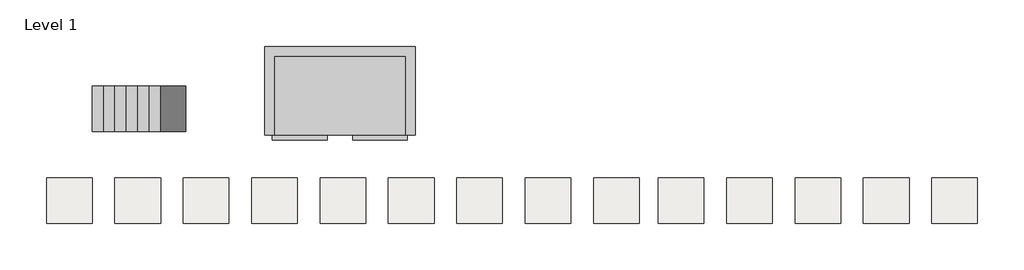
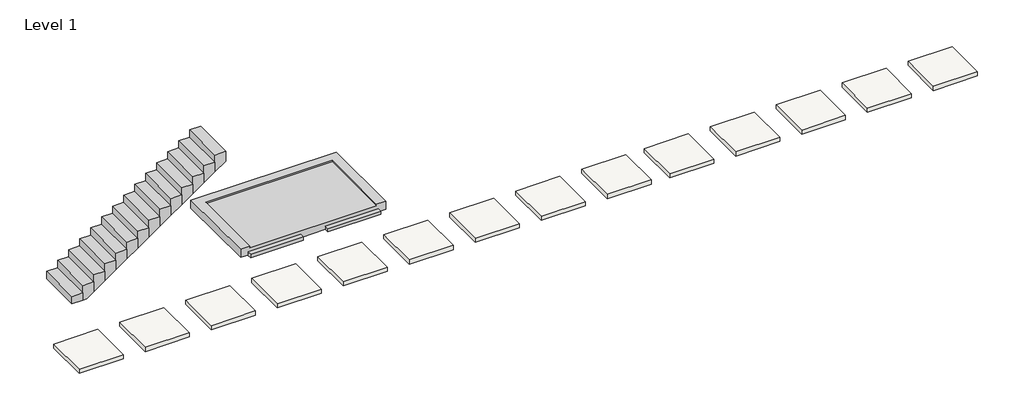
# One storey: 14 slabs, 1 proxy, 1 stair flight.
"""IFC4 building model written with IfcOpenShell, lengths in millimetres."""

from ifc_helpers import new_model, si_unit, frame, origin, place, context, project, spatial, polyline, outline, extrude, faceted_brep, transform, mapped, element, save
from components import proxy_300_24_isr_concrete_platform_double_platform_9cdc8692

model = new_model("IFC4")

# Units and contexts
model_context = context("Model", 3, world=origin())
ifc_project = project(units=[si_unit("LENGTHUNIT", "METRE", prefix="MILLI")], contexts=[model_context])

# Site, building, storey
site = spatial("IfcSite", under=ifc_project)
building = spatial("IfcBuilding", under=site)
storey = spatial("IfcBuildingStorey", under=building, Name="Level 1", Elevation=0.0)

# Proxy
placement = place(None, origin())
proxy_300_24_isr_concrete_platform_double_platform_shape = proxy_300_24_isr_concrete_platform_double_platform_9cdc8692(model_context)
element("IfcBuildingElementProxy", 1, Name="300_24_ISR_concrete_platform : double platform", ObjectType="300_24_ISR_concrete_platform : double platform", at=placement, inside=storey, context=model_context, shape_type="MappedRepresentation", body=[
    mapped(proxy_300_24_isr_concrete_platform_double_platform_shape, transform((-652.5441241, 2827.5413771, 0.0), x_axis=(1.0, 0.0, 0.0), y_axis=(0.0, 1.0, 0.0), z_axis=(0.0, 0.0, 1.0))),
])

# Slabs
element("IfcSlab", 2, ObjectType="Generic 100mm", at=placement, inside=storey, context=model_context, shape_type="SweptSolid", body=[
    extrude(outline(polyline([(-3088.5953778, 89.4387512), (-3088.5953778, -910.5612488), (-4088.5953778, -910.5612488), (-4088.5953778, 89.4387512), (-3088.5953778, 89.4387512)])), frame((0.0, 0.0, -100.0), z_axis=(0.0, 0.0, 1.0), x_axis=(1.0, 0.0, 0.0)), (0.0, 0.0, 1.0), 100.0),
])
element("IfcSlab", 3, ObjectType="Generic 100mm", at=placement, inside=storey, context=model_context, shape_type="SweptSolid", body=[
    extrude(outline(polyline([(-1588.5953778, 89.4387512), (-1588.5953778, -910.5612488), (-2588.5953778, -910.5612488), (-2588.5953778, 89.4387512), (-1588.5953778, 89.4387512)])), frame((0.0, 0.0, -100.0), z_axis=(0.0, 0.0, 1.0), x_axis=(1.0, 0.0, 0.0)), (0.0, 0.0, 1.0), 100.0),
])
element("IfcSlab", 4, ObjectType="Generic 100mm", at=placement, inside=storey, context=model_context, shape_type="SweptSolid", body=[
    extrude(outline(polyline([(-88.5953778, 89.4387512), (-88.5953778, -910.5612488), (-1088.5953778, -910.5612488), (-1088.5953778, 89.4387512), (-88.5953778, 89.4387512)])), frame((0.0, 0.0, -100.0), z_axis=(0.0, 0.0, 1.0), x_axis=(1.0, 0.0, 0.0)), (0.0, 0.0, 1.0), 100.0),
])
element("IfcSlab", 5, ObjectType="Generic 100mm", at=placement, inside=storey, context=model_context, shape_type="SweptSolid", body=[
    extrude(outline(polyline([(1411.4046222, 89.4387512), (1411.4046222, -910.5612488), (411.4046222, -910.5612488), (411.4046222, 89.4387512), (1411.4046222, 89.4387512)])), frame((0.0, 0.0, -100.0), z_axis=(0.0, 0.0, 1.0), x_axis=(1.0, 0.0, 0.0)), (0.0, 0.0, 1.0), 100.0),
])
element("IfcSlab", 6, ObjectType="Generic 100mm", at=placement, inside=storey, context=model_context, shape_type="SweptSolid", body=[
    extrude(outline(polyline([(2911.4046222, 89.4387512), (2911.4046222, -910.5612488), (1911.4046222, -910.5612488), (1911.4046222, 89.4387512), (2911.4046222, 89.4387512)])), frame((0.0, 0.0, -100.0), z_axis=(0.0, 0.0, 1.0), x_axis=(1.0, 0.0, 0.0)), (0.0, 0.0, 1.0), 100.0),
])
element("IfcSlab", 7, ObjectType="Generic 100mm", at=placement, inside=storey, context=model_context, shape_type="SweptSolid", body=[
    extrude(outline(polyline([(4411.4046222, 89.4387512), (4411.4046222, -910.5612488), (3411.4046222, -910.5612488), (3411.4046222, 89.4387512), (4411.4046222, 89.4387512)])), frame((0.0, 0.0, -100.0), z_axis=(0.0, 0.0, 1.0), x_axis=(1.0, 0.0, 0.0)), (0.0, 0.0, 1.0), 100.0),
])
element("IfcSlab", 8, ObjectType="Generic 100mm", at=placement, inside=storey, context=model_context, shape_type="SweptSolid", body=[
    extrude(outline(polyline([(5911.4046222, 89.4387512), (5911.4046222, -910.5612488), (4911.4046222, -910.5612488), (4911.4046222, 89.4387512), (5911.4046222, 89.4387512)])), frame((0.0, 0.0, -100.0), z_axis=(0.0, 0.0, 1.0), x_axis=(1.0, 0.0, 0.0)), (0.0, 0.0, 1.0), 100.0),
])
element("IfcSlab", 9, ObjectType="Generic 100mm", at=placement, inside=storey, context=model_context, shape_type="SweptSolid", body=[
    extrude(outline(polyline([(7411.4046222, 89.4387512), (7411.4046222, -910.5612488), (6411.4046222, -910.5612488), (6411.4046222, 89.4387512), (7411.4046222, 89.4387512)])), frame((0.0, 0.0, -100.0), z_axis=(0.0, 0.0, 1.0), x_axis=(1.0, 0.0, 0.0)), (0.0, 0.0, 1.0), 100.0),
])
element("IfcSlab", 10, ObjectType="Generic 100mm", at=placement, inside=storey, context=model_context, shape_type="SweptSolid", body=[
    extrude(outline(polyline([(-4588.5953778, 89.4387512), (-4588.5953778, -910.5612488), (-5588.5953778, -910.5612488), (-5588.5953778, 89.4387512), (-4588.5953778, 89.4387512)])), frame((0.0, 0.0, -100.0), z_axis=(0.0, 0.0, 1.0), x_axis=(1.0, 0.0, 0.0)), (0.0, 0.0, 1.0), 100.0),
])
element("IfcSlab", 11, ObjectType="Generic 100mm", at=placement, inside=storey, context=model_context, shape_type="SweptSolid", body=[
    extrude(outline(polyline([(8831.4046222, 89.4387512), (8831.4046222, -910.5612488), (7831.4046222, -910.5612488), (7831.4046222, 89.4387512), (8831.4046222, 89.4387512)])), frame((0.0, 0.0, -100.0), z_axis=(0.0, 0.0, 1.0), x_axis=(1.0, 0.0, 0.0)), (0.0, 0.0, 1.0), 100.0),
])
element("IfcSlab", 12, ObjectType="Generic 100mm", at=placement, inside=storey, context=model_context, shape_type="SweptSolid", body=[
    extrude(outline(polyline([(10331.4046222, 89.4387512), (10331.4046222, -910.5612488), (9331.4046222, -910.5612488), (9331.4046222, 89.4387512), (10331.4046222, 89.4387512)])), frame((0.0, 0.0, -100.0), z_axis=(0.0, 0.0, 1.0), x_axis=(1.0, 0.0, 0.0)), (0.0, 0.0, 1.0), 100.0),
])
element("IfcSlab", 13, ObjectType="Generic 100mm", at=placement, inside=storey, context=model_context, shape_type="SweptSolid", body=[
    extrude(outline(polyline([(11831.4046222, 89.4387512), (11831.4046222, -910.5612488), (10831.4046222, -910.5612488), (10831.4046222, 89.4387512), (11831.4046222, 89.4387512)])), frame((0.0, 0.0, -100.0), z_axis=(0.0, 0.0, 1.0), x_axis=(1.0, 0.0, 0.0)), (0.0, 0.0, 1.0), 100.0),
])
element("IfcSlab", 14, ObjectType="Generic 100mm", at=placement, inside=storey, context=model_context, shape_type="SweptSolid", body=[
    extrude(outline(polyline([(13331.4046222, 89.4387512), (13331.4046222, -910.5612488), (12331.4046222, -910.5612488), (12331.4046222, 89.4387512), (13331.4046222, 89.4387512)])), frame((0.0, 0.0, -100.0), z_axis=(0.0, 0.0, 1.0), x_axis=(1.0, 0.0, 0.0)), (0.0, 0.0, 1.0), 100.0),
])
element("IfcSlab", 15, ObjectType="Generic 100mm", at=placement, inside=storey, context=model_context, shape_type="SweptSolid", body=[
    extrude(outline(polyline([(14831.4046222, 89.4387512), (14831.4046222, -910.5612488), (13831.4046222, -910.5612488), (13831.4046222, 89.4387512), (14831.4046222, 89.4387512)])), frame((0.0, 0.0, -100.0), z_axis=(0.0, 0.0, 1.0), x_axis=(1.0, 0.0, 0.0)), (0.0, 0.0, 1.0), 100.0),
])

# Stair flight
element("IfcStairFlight", 16, ObjectType="190mm Depth", at=placement, inside=storey, context=model_context, shape_type="Brep", body=[
    faceted_brep([(-4338.5953778, 2107.5413771, 173.9130435), (-4588.5953778, 2107.5413771, 173.9130435), (-4588.5953778, 1107.5413771, 173.9130435), (-4338.5953778, 1107.5413771, 173.9130435), (-4338.5953778, 2107.5413771, 0.0), (-4588.5953778, 2107.5413771, 0.0), (-4588.5953778, 1107.5413771, 0.0), (-4338.5953778, 1107.5413771, 0.0), (-4088.5953778, 2107.5413771, 347.826087), (-4338.5953778, 2107.5413771, 347.826087), (-4338.5953778, 1107.5413771, 347.826087), (-4088.5953778, 1107.5413771, 347.826087), (-4088.5953778, 2107.5413771, 116.3742706), (-4255.8833918, 2107.5413771, 0.0), (-4255.8833918, 1107.5413771, 0.0), (-4088.5953778, 1107.5413771, 116.3742706), (-3838.5953778, 2107.5413771, 521.7391304), (-4088.5953778, 2107.5413771, 521.7391304), (-4088.5953778, 1107.5413771, 521.7391304), (-3838.5953778, 1107.5413771, 521.7391304), (-3838.5953778, 2107.5413771, 290.2873141), (-3838.5953778, 1107.5413771, 290.2873141), (-3588.5953778, 2107.5413771, 695.6521739), (-3838.5953778, 2107.5413771, 695.6521739), (-3838.5953778, 1107.5413771, 695.6521739), (-3588.5953778, 1107.5413771, 695.6521739), (-3588.5953778, 2107.5413771, 464.2003576), (-3588.5953778, 1107.5413771, 464.2003576), (-3338.5953778, 2107.5413771, 869.5652174), (-3588.5953778, 2107.5413771, 869.5652174), (-3588.5953778, 1107.5413771, 869.5652174), (-3338.5953778, 1107.5413771, 869.5652174), (-3338.5953778, 2107.5413771, 638.113401), (-3338.5953778, 1107.5413771, 638.113401), (-3088.5953778, 2107.5413771, 1043.4782609), (-3338.5953778, 2107.5413771, 1043.4782609), (-3338.5953778, 1107.5413771, 1043.4782609), (-3088.5953778, 1107.5413771, 1043.4782609), (-3088.5953778, 2107.5413771, 812.0264445), (-3088.5953778, 1107.5413771, 812.0264445), (-2838.5953778, 2107.5413771, 1217.3913043), (-3088.5953778, 2107.5413771, 1217.3913043), (-3088.5953778, 1107.5413771, 1217.3913043), (-2838.5953778, 1107.5413771, 1217.3913043), (-2838.5953778, 2107.5413771, 985.939488), (-2838.5953778, 1107.5413771, 985.939488), (-2588.5953778, 2107.5413771, 1391.3043478), (-2838.5953778, 2107.5413771, 1391.3043478), (-2838.5953778, 1107.5413771, 1391.3043478), (-2588.5953778, 1107.5413771, 1391.3043478), (-2588.5953778, 2107.5413771, 1159.8525315), (-2588.5953778, 1107.5413771, 1159.8525315), (-2338.5953778, 2107.5413771, 1565.2173913), (-2588.5953778, 2107.5413771, 1565.2173913), (-2588.5953778, 1107.5413771, 1565.2173913), (-2338.5953778, 1107.5413771, 1565.2173913), (-2338.5953778, 2107.5413771, 1333.765575), (-2338.5953778, 1107.5413771, 1333.765575), (-2088.5953778, 2107.5413771, 1739.1304348), (-2338.5953778, 2107.5413771, 1739.1304348), (-2338.5953778, 1107.5413771, 1739.1304348), (-2088.5953778, 1107.5413771, 1739.1304348), (-2088.5953778, 2107.5413771, 1507.6786184), (-2088.5953778, 1107.5413771, 1507.6786184), (-1838.5953778, 2107.5413771, 1913.0434783), (-2088.5953778, 2107.5413771, 1913.0434783), (-2088.5953778, 1107.5413771, 1913.0434783), (-1838.5953778, 1107.5413771, 1913.0434783), (-1838.5953778, 2107.5413771, 1681.5916619), (-1838.5953778, 1107.5413771, 1681.5916619), (-1588.5953778, 2107.5413771, 2086.9565217), (-1838.5953778, 2107.5413771, 2086.9565217), (-1838.5953778, 1107.5413771, 2086.9565217), (-1588.5953778, 1107.5413771, 2086.9565217), (-1588.5953778, 2107.5413771, 1855.5047054), (-1588.5953778, 1107.5413771, 1855.5047054), (-1338.5953778, 2107.5413771, 2260.8695652), (-1588.5953778, 2107.5413771, 2260.8695652), (-1588.5953778, 1107.5413771, 2260.8695652), (-1338.5953778, 1107.5413771, 2260.8695652), (-1338.5953778, 2107.5413771, 2029.4177489), (-1338.5953778, 1107.5413771, 2029.4177489), (-1088.5953778, 2107.5413771, 2203.3307924), (-1088.5953778, 1107.5413771, 2203.3307924), (-1088.5953778, 2107.5413771, 2434.7826087), (-1338.5953778, 2107.5413771, 2434.7826087), (-1338.5953778, 1107.5413771, 2434.7826087), (-1088.5953778, 1107.5413771, 2434.7826087)], [[[0, 1, 2, 3]], [[1, 0, 4, 5]], [[2, 1, 5, 6]], [[3, 2, 6, 7]], [[8, 9, 10, 11]], [[4, 0, 9, 8, 12, 13]], [[0, 3, 10, 9]], [[3, 7, 14, 15, 11, 10]], [[16, 17, 18, 19]], [[17, 16, 20, 12, 8]], [[8, 11, 18, 17]], [[19, 18, 11, 15, 21]], [[22, 23, 24, 25]], [[23, 22, 26, 20, 16]], [[16, 19, 24, 23]], [[25, 24, 19, 21, 27]], [[28, 29, 30, 31]], [[29, 28, 32, 26, 22]], [[22, 25, 30, 29]], [[31, 30, 25, 27, 33]], [[34, 35, 36, 37]], [[35, 34, 38, 32, 28]], [[28, 31, 36, 35]], [[37, 36, 31, 33, 39]], [[40, 41, 42, 43]], [[41, 40, 44, 38, 34]], [[34, 37, 42, 41]], [[43, 42, 37, 39, 45]], [[46, 47, 48, 49]], [[47, 46, 50, 44, 40]], [[40, 43, 48, 47]], [[49, 48, 43, 45, 51]], [[52, 53, 54, 55]], [[53, 52, 56, 50, 46]], [[46, 49, 54, 53]], [[55, 54, 49, 51, 57]], [[58, 59, 60, 61]], [[59, 58, 62, 56, 52]], [[52, 55, 60, 59]], [[61, 60, 55, 57, 63]], [[64, 65, 66, 67]], [[65, 64, 68, 62, 58]], [[58, 61, 66, 65]], [[67, 66, 61, 63, 69]], [[70, 71, 72, 73]], [[71, 70, 74, 68, 64]], [[64, 67, 72, 71]], [[73, 72, 67, 69, 75]], [[76, 77, 78, 79]], [[77, 76, 80, 74, 70]], [[70, 73, 78, 77]], [[79, 78, 73, 75, 81]], [[5, 4, 13, 14, 7, 6]], [[14, 13, 12, 20, 26, 32, 38, 44, 50, 56, 62, 68, 74, 80, 82, 83, 81, 75, 69, 63, 57, 51, 45, 39, 33, 27, 21, 15]], [[84, 85, 86, 87]], [[85, 84, 82, 80, 76]], [[76, 79, 86, 85]], [[87, 86, 79, 81, 83]], [[84, 87, 83, 82]]]),
])

save(model, "model.ifc")
